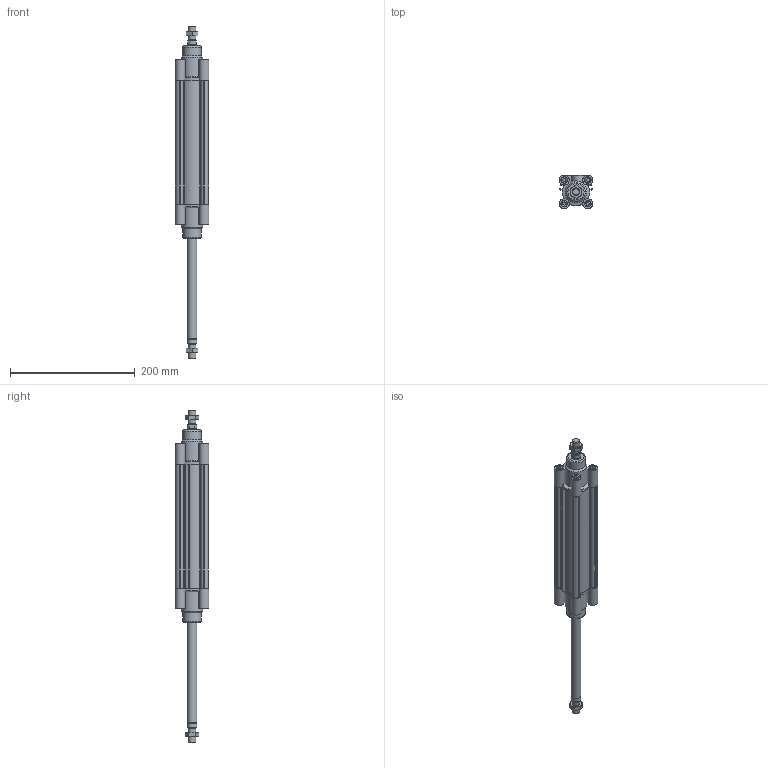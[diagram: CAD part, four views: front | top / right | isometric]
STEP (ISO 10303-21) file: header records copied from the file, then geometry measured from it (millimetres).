
FILE_DESCRIPTION((''),'2;1');
FILE_NAME('I:\Area Tecnica\Disegni\VARIE-3D\Componenti\ECOLIGHT\02\stp\139#_40_0160_02.iam.stp','2012-01-28T09:38:57',(''),(''),'Autodesk Inventor 2012','Autodesk Inventor 2012','');
FILE_SCHEMA(('AUTOMOTIVE_DESIGN { 1 0 10303 214 1 1 1 1 }'));
Length unit declared in the file: millimetre
Products named in the file (5): 139#_40_0160_02; CPL040_004-160; CPL040-001-01; CPL_40SP_0160; 1320_40_18F
Assembly tree (6 placements, depth 2):
  139#_40_0160_02
    CPL040_004-160
    CPL040-001-01  x2
    CPL_40SP_0160
    1320_40_18F  x2
Bounding box: 54 x 54 x 533 mm (x, y, z)
Volume: 415233.7 mm3; surface area: 181007.3 mm2
Topology: 6 solids, 6 shells, 351 faces, 860 edges, 564 vertices
Faces by surface type: plane 211, cylinder 98, cone 40, torus 2
Full cylindrical faces by diameter (mm): 5 x8, 5.5 x4, 8 x2, 10 x8, 10.5 x10, 10.8 x2, 11.6 x2, 12 x2, 15.5 x2, 16 x4, 30 x2, 35 x2, 40 x4
Entity records: 7104 total; most frequent: CARTESIAN_POINT 1295, DIRECTION 1162, ORIENTED_EDGE 1084, EDGE_CURVE 542, AXIS2_PLACEMENT_3D 413, VERTEX_POINT 380, VECTOR 336, LINE 336
